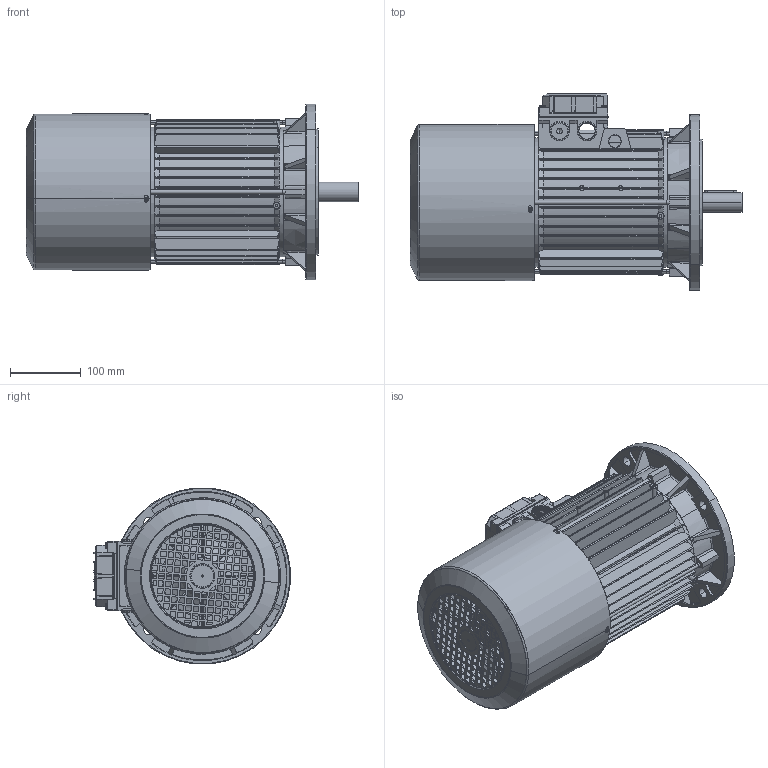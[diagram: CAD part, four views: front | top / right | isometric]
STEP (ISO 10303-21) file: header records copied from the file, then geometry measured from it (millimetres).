
FILE_DESCRIPTION (( 'STEP AP214' ), '1' );
FILE_NAME ('M14HB0012.STEP', '2019-09-20T12:45:57', ( '' ), ( '' ), 'SwSTEP 2.0', 'SolidWorks 2018', '' );
FILE_SCHEMA (( 'AUTOMOTIVE_DESIGN' ));
Length unit declared in the file: millimetre
Products named in the file (13): Cuffia BM 112; Coperchio per Scatola Singola 90 - 100 - 112 con viti; Guarnizione Coperchio Semplice Scatola BA 90 100 112 - DDAL0094; Vite per coperchio morsettiera; Coperchio per Scatola Singola 90 - 100 - 112; Ventola BM 100-112; Chiavetta 100-112; Albero BM 112; Tirante SM 112; Scudo Lato Freno P1 BM 112 - DFAN0101; Scudo a flangia B5 Fi 250 BA-BM 112; Carcassa 112 B5; M14HB0012
Assembly tree (18 placements, depth 3):
  M14HB0012
    Carcassa 112 B5
    Scudo a flangia B5 Fi 250 BA-BM 112
    Scudo Lato Freno P1 BM 112 - DFAN0101
    Tirante SM 112  x4
    Albero BM 112
    Chiavetta 100-112
    Ventola BM 100-112
    Coperchio per Scatola Singola 90 - 100 - 112 con viti
      Coperchio per Scatola Singola 90 - 100 - 112
      Vite per coperchio morsettiera  x4
      Guarnizione Coperchio Semplice Scatola BA 90 100 112 - DDAL0094
    Cuffia BM 112
Bounding box: 470.25 x 278.52 x 249.05 mm (x, y, z)
Volume: 2307654.1 mm3; surface area: 1221969.4 mm2
Topology: 21 solids, 21 shells, 3370 faces, 9321 edges, 5986 vertices
Faces by surface type: plane 1265, cylinder 1264, torus 341, cone 315, bspline 185
Entity records: 117636 total; most frequent: CARTESIAN_POINT 36963, ORIENTED_EDGE 17422, DIRECTION 15761, EDGE_CURVE 8711, AXIS2_PLACEMENT_3D 5871, VERTEX_POINT 5656, LINE 4019, VECTOR 4019
